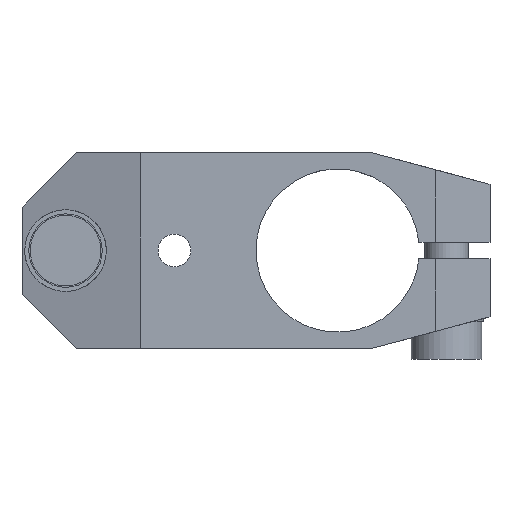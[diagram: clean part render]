
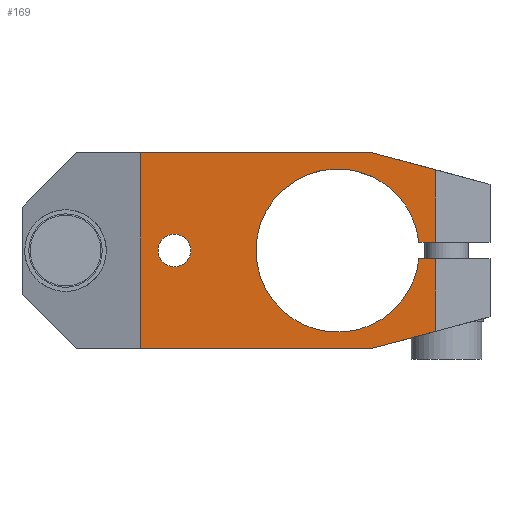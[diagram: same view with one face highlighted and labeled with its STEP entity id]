
A CAD part, front view. The second image highlights one B-rep face of the part: STEP entity #169.
In plain terms, the highlighted planar face has unit normal (0, -1, 0).
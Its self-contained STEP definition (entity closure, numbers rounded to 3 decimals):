
#169=ADVANCED_FACE('Copy of Solid.799136',(#406,#407),#408,.T.);
#406=FACE_OUTER_BOUND('',#724,.T.);
#407=FACE_BOUND('',#725,.T.);
#408=PLANE('',#726);
#724=EDGE_LOOP('',(#1177,#1178,#1179,#1180,#1181,#1182,#1183,#1184,#1185,#1186,#1187,#1188,#1189));
#725=EDGE_LOOP('',(#1190,#1191,#1192,#1193));
#726=AXIS2_PLACEMENT_3D('',#1194,#1195,#1196);
#1177=ORIENTED_EDGE('',*,*,#1976,.T.);
#1178=ORIENTED_EDGE('',*,*,#1977,.F.);
#1179=ORIENTED_EDGE('',*,*,#1978,.F.);
#1180=ORIENTED_EDGE('',*,*,#1979,.F.);
#1181=ORIENTED_EDGE('',*,*,#1925,.F.);
#1182=ORIENTED_EDGE('',*,*,#1980,.F.);
#1183=ORIENTED_EDGE('',*,*,#1981,.F.);
#1184=ORIENTED_EDGE('',*,*,#1982,.T.);
#1185=ORIENTED_EDGE('',*,*,#1983,.F.);
#1186=ORIENTED_EDGE('',*,*,#1984,.F.);
#1187=ORIENTED_EDGE('',*,*,#1985,.F.);
#1188=ORIENTED_EDGE('',*,*,#1966,.T.);
#1189=ORIENTED_EDGE('',*,*,#1958,.T.);
#1190=ORIENTED_EDGE('',*,*,#1920,.F.);
#1191=ORIENTED_EDGE('',*,*,#1914,.F.);
#1192=ORIENTED_EDGE('',*,*,#1986,.F.);
#1193=ORIENTED_EDGE('',*,*,#1987,.F.);
#1194=CARTESIAN_POINT('',(-36.233,-18.0,0.0));
#1195=DIRECTION('',(0.0,-1.0,0.0));
#1196=DIRECTION('',(1.0,0.0,0.0));
#1914=EDGE_CURVE('',#2304,#2307,#2308,.T.);
#1920=EDGE_CURVE('',#2307,#2314,#2317,.T.);
#1925=EDGE_CURVE('',#2324,#2320,#2326,.T.);
#1958=EDGE_CURVE('',#2370,#2381,#2383,.T.);
#1966=EDGE_CURVE('',#2396,#2370,#2397,.T.);
#1976=EDGE_CURVE('',#2381,#2412,#2413,.T.);
#1977=EDGE_CURVE('',#2414,#2412,#2415,.F.);
#1978=EDGE_CURVE('',#2416,#2414,#2417,.T.);
#1979=EDGE_CURVE('',#2320,#2416,#2418,.T.);
#1980=EDGE_CURVE('',#2419,#2324,#2420,.T.);
#1981=EDGE_CURVE('',#2421,#2419,#2422,.F.);
#1982=EDGE_CURVE('',#2421,#2423,#2424,.T.);
#1983=EDGE_CURVE('',#2425,#2423,#2426,.T.);
#1984=EDGE_CURVE('',#2427,#2425,#2428,.T.);
#1985=EDGE_CURVE('',#2396,#2427,#2429,.T.);
#1986=EDGE_CURVE('',#2430,#2304,#2431,.T.);
#1987=EDGE_CURVE('',#2314,#2430,#2432,.T.);
#2304=VERTEX_POINT('',#3048);
#2307=VERTEX_POINT('',#3052);
#2308=CIRCLE('',#3053,3.0);
#2314=VERTEX_POINT('',#3080);
#2317=CIRCLE('',#3104,3.0);
#2320=VERTEX_POINT('',#3107);
#2324=VERTEX_POINT('',#3112);
#2326=CIRCLE('',#3115,15.0);
#2370=VERTEX_POINT('',#3293);
#2381=VERTEX_POINT('',#3309);
#2383=LINE('',#3312,#3313);
#2396=VERTEX_POINT('',#3376);
#2397=LINE('',#3377,#3378);
#2412=VERTEX_POINT('',#3396);
#2413=LINE('',#3397,#3398);
#2414=VERTEX_POINT('',#3399);
#2415=LINE('',#3400,#3401);
#2416=VERTEX_POINT('',#3402);
#2417=CIRCLE('',#3403,15.0);
#2418=CIRCLE('',#3404,15.0);
#2419=VERTEX_POINT('',#3405);
#2420=CIRCLE('',#3406,15.0);
#2421=VERTEX_POINT('',#3407);
#2422=LINE('',#3408,#3409);
#2423=VERTEX_POINT('',#3410);
#2424=LINE('',#3411,#3412);
#2425=VERTEX_POINT('',#3413);
#2426=LINE('',#3414,#3415);
#2427=VERTEX_POINT('',#3416);
#2428=LINE('',#3417,#3418);
#2429=LINE('',#3419,#3420);
#2430=VERTEX_POINT('',#3421);
#2431=CIRCLE('',#3422,3.0);
#2432=CIRCLE('',#3423,3.0);
#3048=CARTESIAN_POINT('',(-27.0,-18.0,0.));
#3052=CARTESIAN_POINT('',(-32.633,-18.0,1.438));
#3053=AXIS2_PLACEMENT_3D('',#4104,#4105,#4106);
#3080=CARTESIAN_POINT('',(-33.0,-18.0,0.));
#3104=AXIS2_PLACEMENT_3D('',#4109,#4110,#4111);
#3107=CARTESIAN_POINT('',(-15.0,-18.0,0.));
#3112=CARTESIAN_POINT('',(-13.164,-18.0,7.191));
#3115=AXIS2_PLACEMENT_3D('',#4117,#4118,#4119);
#3293=CARTESIAN_POINT('',(6.233,-18.0,-18.0));
#3309=CARTESIAN_POINT('',(18.0,-18.0,-14.847));
#3312=CARTESIAN_POINT('',(12.117,-18.0,-16.424));
#3313=VECTOR('',#4152,1.0);
#3376=CARTESIAN_POINT('',(-36.233,-18.0,-18.0));
#3377=CARTESIAN_POINT('',(-15.0,-18.0,-18.0));
#3378=VECTOR('',#4157,1.0);
#3396=CARTESIAN_POINT('',(18.0,-18.0,-1.5));
#3397=CARTESIAN_POINT('',(18.0,-18.0,-8.174));
#3398=VECTOR('',#4176,1.0);
#3399=CARTESIAN_POINT('',(14.925,-18.0,-1.5));
#3400=CARTESIAN_POINT('',(16.462,-18.0,-1.5));
#3401=VECTOR('',#4177,1.0);
#3402=CARTESIAN_POINT('',(13.164,-18.0,-7.191));
#3403=AXIS2_PLACEMENT_3D('',#4178,#4179,#4180);
#3404=AXIS2_PLACEMENT_3D('',#4181,#4182,#4183);
#3405=CARTESIAN_POINT('',(14.925,-18.0,1.5));
#3406=AXIS2_PLACEMENT_3D('',#4184,#4185,#4186);
#3407=CARTESIAN_POINT('',(18.0,-18.0,1.5));
#3408=CARTESIAN_POINT('',(16.462,-18.0,1.5));
#3409=VECTOR('',#4187,1.0);
#3410=CARTESIAN_POINT('',(18.0,-18.0,14.847));
#3411=CARTESIAN_POINT('',(18.0,-18.0,8.174));
#3412=VECTOR('',#4188,1.0);
#3413=CARTESIAN_POINT('',(6.233,-18.0,18.0));
#3414=CARTESIAN_POINT('',(12.117,-18.0,16.424));
#3415=VECTOR('',#4189,1.0);
#3416=CARTESIAN_POINT('',(-36.233,-18.0,18.0));
#3417=CARTESIAN_POINT('',(-15.0,-18.0,18.0));
#3418=VECTOR('',#4190,1.0);
#3419=CARTESIAN_POINT('',(-36.233,-18.0,0.0));
#3420=VECTOR('',#4191,1.0);
#3421=CARTESIAN_POINT('',(-27.367,-18.0,-1.438));
#3422=AXIS2_PLACEMENT_3D('',#4192,#4193,#4194);
#3423=AXIS2_PLACEMENT_3D('',#4195,#4196,#4197);
#4104=CARTESIAN_POINT('',(-30.0,-18.0,0.));
#4105=DIRECTION('',(0.0,-1.0,0.0));
#4106=DIRECTION('',(1.0,0.0,0.0));
#4109=CARTESIAN_POINT('',(-30.0,-18.0,0.));
#4110=DIRECTION('',(0.0,-1.0,0.0));
#4111=DIRECTION('',(1.0,0.0,0.0));
#4117=CARTESIAN_POINT('',(0.0,-18.0,0.));
#4118=DIRECTION('',(0.0,-1.0,0.0));
#4119=DIRECTION('',(1.0,0.0,0.0));
#4152=DIRECTION('',(0.966,0.0,0.259));
#4157=DIRECTION('',(1.0,0.0,0.0));
#4176=DIRECTION('',(0.0,0.0,1.0));
#4177=DIRECTION('',(-1.0,0.0,0.0));
#4178=CARTESIAN_POINT('',(0.0,-18.0,0.));
#4179=DIRECTION('',(0.0,-1.0,0.0));
#4180=DIRECTION('',(1.0,0.0,0.0));
#4181=CARTESIAN_POINT('',(0.0,-18.0,0.));
#4182=DIRECTION('',(0.0,-1.0,0.0));
#4183=DIRECTION('',(1.0,0.0,0.0));
#4184=CARTESIAN_POINT('',(0.0,-18.0,0.));
#4185=DIRECTION('',(0.0,-1.0,0.0));
#4186=DIRECTION('',(1.0,0.0,0.0));
#4187=DIRECTION('',(1.0,0.0,0.0));
#4188=DIRECTION('',(0.0,0.0,1.0));
#4189=DIRECTION('',(0.966,0.0,-0.259));
#4190=DIRECTION('',(1.0,0.0,0.0));
#4191=DIRECTION('',(0.0,0.0,1.0));
#4192=CARTESIAN_POINT('',(-30.0,-18.0,0.));
#4193=DIRECTION('',(0.0,-1.0,0.0));
#4194=DIRECTION('',(1.0,0.0,0.0));
#4195=CARTESIAN_POINT('',(-30.0,-18.0,0.));
#4196=DIRECTION('',(0.0,-1.0,0.0));
#4197=DIRECTION('',(1.0,0.0,0.0));
